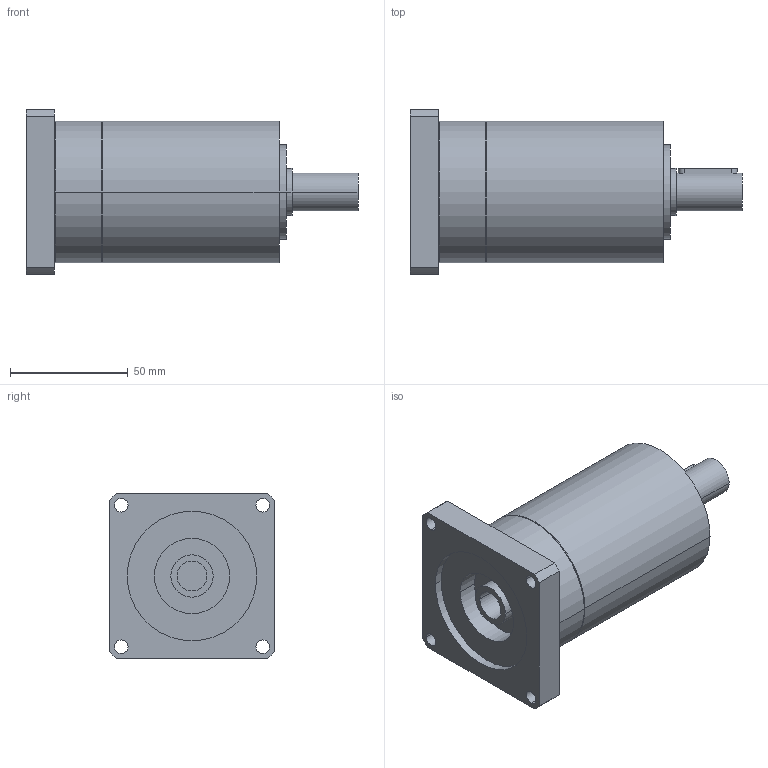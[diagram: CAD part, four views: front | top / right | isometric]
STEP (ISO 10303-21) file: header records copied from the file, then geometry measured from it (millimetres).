
FILE_DESCRIPTION(('CoCreate Modeling STEP Export'),'2;1');
FILE_NAME('GPR75_ig-9-12-16-20-24-30-36_16_B14_12.7_P25.stp','2014-08-25T16:01:58',(''),(''),'CoCreate Modeling STEP processor for AP214 (Solid Model)','CoCreate Modeling 16.00C 25-Feb-2009 (C) Parametric Technology GmbH','');
FILE_SCHEMA(('AUTOMOTIVE_DESIGN { 1 0 10303 214 1 1 1 1 }'));
Length unit declared in the file: millimetre
Products named in the file (2): GPR75_ig-9-12-16-20-24-30-36_16_B14_12.7_P25
Assembly tree (1 placements, depth 2):
  GPR75_ig-9-12-16-20-24-30-36_16_B14_12.7_P25
    GPR75_ig-9-12-16-20-24-30-36_16_B14_12.7_P25
Bounding box: 141 x 70 x 70 mm (x, y, z)
Volume: 319423.3 mm3; surface area: 41538.9 mm2
Topology: 1 solids, 1 shells, 73 faces, 195 edges, 137 vertices
Faces by surface type: cylinder 44, plane 23, cone 6
Entity records: 2009 total; most frequent: ORIENTED_EDGE 386, CARTESIAN_POINT 371, DIRECTION 272, EDGE_CURVE 193, VERTEX_POINT 137, AXIS2_PLACEMENT_3D 102, EDGE_LOOP 96, FACE_OUTER_BOUND 73
